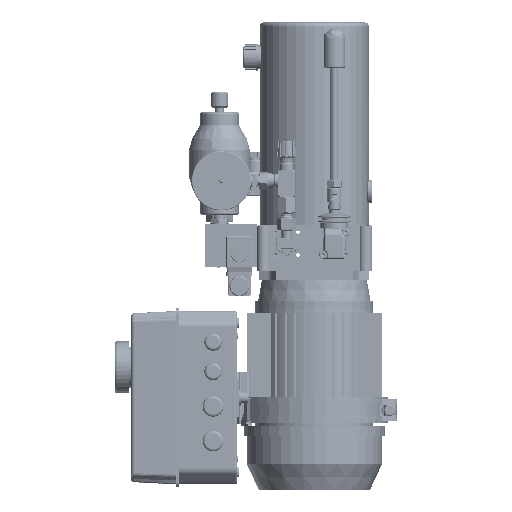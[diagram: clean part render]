
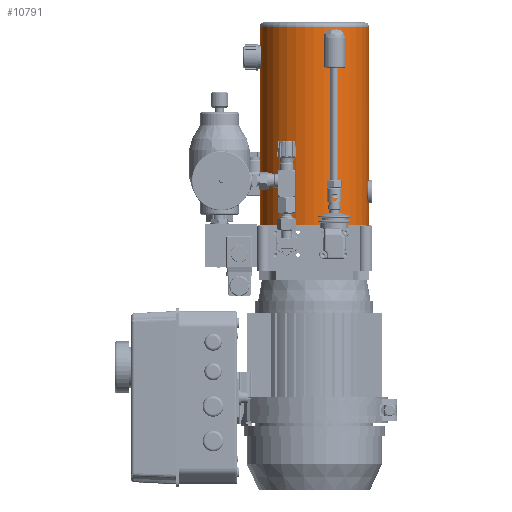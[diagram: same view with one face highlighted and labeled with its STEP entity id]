
A CAD part, left-side view. The second image highlights one B-rep face of the part: STEP entity #10791.
In plain terms, the highlighted cylindrical face has radius 63 mm (diameter 126 mm), a partial arc.
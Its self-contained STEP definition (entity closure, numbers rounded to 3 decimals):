
#9471=CARTESIAN_POINT('',(-0.12,-0.54,22.));
#9472=DIRECTION('',(0.,0.,-1.));
#9473=DIRECTION('',(0.,-1.,0.));
#9474=AXIS2_PLACEMENT_3D('',#9471,#9472,#9473);
#9487=DIRECTION('',(0.,0.,1.));
#9488=VECTOR('',#9487,177.5);
#9489=CARTESIAN_POINT('',(-0.12,-63.54,72.5));
#9490=LINE('',#9489,#9488);
#9494=DIRECTION('',(0.,0.,1.));
#9495=VECTOR('',#9494,25.);
#9496=CARTESIAN_POINT('',(-15.868,-61.54,47.5));
#9497=LINE('',#9496,#9495);
#9501=DIRECTION('',(0.,0.,1.));
#9502=VECTOR('',#9501,25.5);
#9503=CARTESIAN_POINT('',(-0.12,-63.54,22.));
#9504=LINE('',#9503,#9502);
#9508=DIRECTION('',(0.,0.,-1.));
#9509=VECTOR('',#9508,25.);
#9510=CARTESIAN_POINT('',(-15.868,60.46,227.5));
#9511=LINE('',#9510,#9509);
#9515=DIRECTION('',(0.,0.,1.));
#9516=VECTOR('',#9515,22.5);
#9517=CARTESIAN_POINT('',(-0.12,62.46,227.5));
#9518=LINE('',#9517,#9516);
#9529=DIRECTION('',(0.,0.,1.));
#9530=VECTOR('',#9529,180.5);
#9531=CARTESIAN_POINT('',(-0.12,62.46,22.));
#9532=LINE('',#9531,#9530);
#9559=CARTESIAN_POINT('',(-0.12,-0.54,250.));
#9560=DIRECTION('',(0.,0.,1.));
#9561=DIRECTION('',(0.,1.,0.));
#9562=AXIS2_PLACEMENT_3D('',#9559,#9560,#9561);
#9606=CARTESIAN_POINT('',(-0.12,-0.54,227.5));
#9607=DIRECTION('',(0.,0.,-1.));
#9608=DIRECTION('',(-0.25,0.968,0.));
#9609=AXIS2_PLACEMENT_3D('',#9606,#9607,#9608);
#9637=CARTESIAN_POINT('',(-0.12,-0.54,202.5));
#9638=DIRECTION('',(0.,0.,1.));
#9639=DIRECTION('',(0.,1.,0.));
#9640=AXIS2_PLACEMENT_3D('',#9637,#9638,#9639);
#10024=CARTESIAN_POINT('',(-0.12,-0.54,72.5));
#10025=DIRECTION('',(0.,0.,-1.));
#10026=DIRECTION('',(0.,-1.,0.));
#10027=AXIS2_PLACEMENT_3D('',#10024,#10025,#10026);
#10055=CARTESIAN_POINT('',(-0.12,-0.54,47.5));
#10056=DIRECTION('',(0.,0.,1.));
#10057=DIRECTION('',(-0.25,-0.968,0.));
#10058=AXIS2_PLACEMENT_3D('',#10055,#10056,#10057);
#10078=CARTESIAN_POINT('',(-0.12,62.46,202.5));
#10080=VERTEX_POINT('',#10078);
#10115=CARTESIAN_POINT('',(-0.12,62.46,227.5));
#10116=CARTESIAN_POINT('',(-0.12,62.46,250.));
#10117=VERTEX_POINT('',#10115);
#10118=VERTEX_POINT('',#10116);
#10141=CARTESIAN_POINT('',(-15.868,60.46,202.5));
#10142=VERTEX_POINT('',#10141);
#10143=CARTESIAN_POINT('',(-0.12,-63.54,22.));
#10144=CARTESIAN_POINT('',(-0.12,-63.54,47.5));
#10145=VERTEX_POINT('',#10143);
#10146=VERTEX_POINT('',#10144);
#10178=CARTESIAN_POINT('',(-15.868,-61.54,72.5));
#10180=VERTEX_POINT('',#10178);
#10205=CARTESIAN_POINT('',(-15.868,-61.54,47.5));
#10206=VERTEX_POINT('',#10205);
#10217=CARTESIAN_POINT('',(-0.12,-63.54,72.5));
#10218=VERTEX_POINT('',#10217);
#10222=CARTESIAN_POINT('',(-15.868,60.46,227.5));
#10224=VERTEX_POINT('',#10222);
#10233=CARTESIAN_POINT('',(-0.12,62.46,22.));
#10234=VERTEX_POINT('',#10233);
#10245=CARTESIAN_POINT('',(-0.12,-63.54,250.));
#10246=VERTEX_POINT('',#10245);
#10761=CARTESIAN_POINT('',(-0.12,-0.54,
433.191));
#10762=DIRECTION('',(0.,0.,-1.));
#10763=DIRECTION('',(0.,1.,0.));
#10764=AXIS2_PLACEMENT_3D('',#10761,#10762,#10763);
#10765=CYLINDRICAL_SURFACE('',#10764,63.);
#10767=ORIENTED_EDGE('',*,*,#10766,.F.);
#10769=ORIENTED_EDGE('',*,*,#10768,.T.);
#10771=ORIENTED_EDGE('',*,*,#10770,.F.);
#10773=ORIENTED_EDGE('',*,*,#10772,.T.);
#10775=ORIENTED_EDGE('',*,*,#10774,.F.);
#10776=ORIENTED_EDGE('',*,*,#10754,.T.);
#10778=ORIENTED_EDGE('',*,*,#10777,.T.);
#10780=ORIENTED_EDGE('',*,*,#10779,.T.);
#10782=ORIENTED_EDGE('',*,*,#10781,.F.);
#10784=ORIENTED_EDGE('',*,*,#10783,.T.);
#10786=ORIENTED_EDGE('',*,*,#10785,.T.);
#10788=ORIENTED_EDGE('',*,*,#10787,.T.);
#10789=EDGE_LOOP('',(#10767,#10769,#10771,#10773,#10775,#10776,#10778,#10780,
#10782,#10784,#10786,#10788));
#10790=FACE_OUTER_BOUND('',#10789,.F.);
#10791=ADVANCED_FACE('',(#10790),#10765,.T.);
#9475=CIRCLE('',#9474,63.);
#9563=CIRCLE('',#9562,63.);
#9610=CIRCLE('',#9609,63.);
#9641=CIRCLE('',#9640,63.);
#10028=CIRCLE('',#10027,63.);
#10059=CIRCLE('',#10058,63.);
#10754=EDGE_CURVE('',#10145,#10234,#9475,.T.);
#10766=EDGE_CURVE('',#10218,#10246,#9490,.T.);
#10768=EDGE_CURVE('',#10218,#10180,#10028,.T.);
#10770=EDGE_CURVE('',#10206,#10180,#9497,.T.);
#10772=EDGE_CURVE('',#10206,#10146,#10059,.T.);
#10774=EDGE_CURVE('',#10145,#10146,#9504,.T.);
#10777=EDGE_CURVE('',#10234,#10080,#9532,.T.);
#10779=EDGE_CURVE('',#10080,#10142,#9641,.T.);
#10781=EDGE_CURVE('',#10224,#10142,#9511,.T.);
#10783=EDGE_CURVE('',#10224,#10117,#9610,.T.);
#10785=EDGE_CURVE('',#10117,#10118,#9518,.T.);
#10787=EDGE_CURVE('',#10118,#10246,#9563,.T.);
